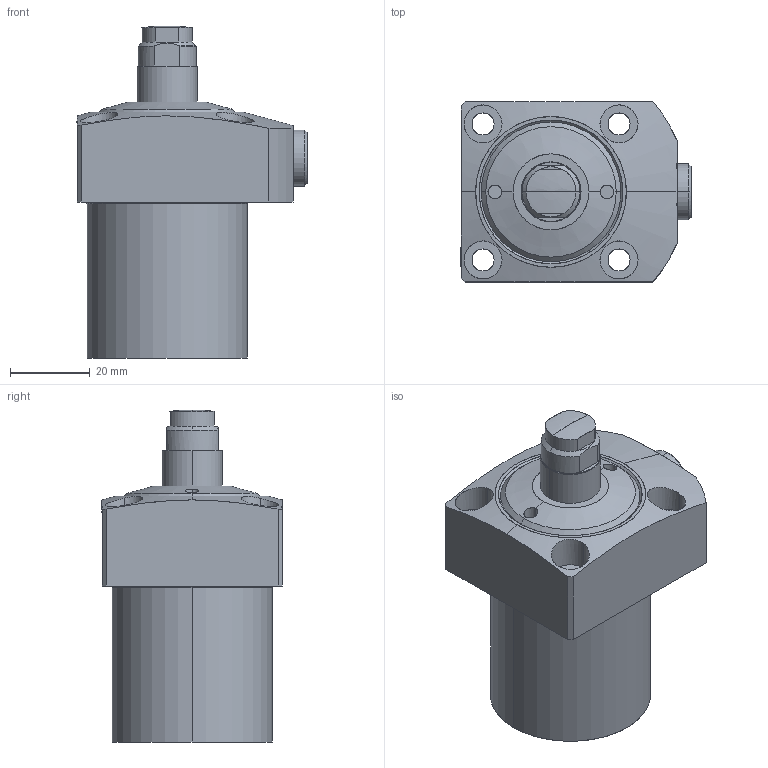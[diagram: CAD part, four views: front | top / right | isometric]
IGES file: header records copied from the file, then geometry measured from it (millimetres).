
Start section: SolidWorks IGES file using analytic representation for surfaces
Global section: file name: D:\abhilash\nijil\cylinder\Clasys1\lcE\cx\402\pt\0203-0101-E.IGS; native system: SolidWorks 2010; preprocessor: SolidWorks 2010; author: nidheesh; date: 130730.121546; units: millimetre
Bounding box: 57.5 x 45 x 83 mm (x, y, z)
Surface area: 16471.2 mm2 (no closed solid volume)
Topology: 0 solids, 0 shells, 84 faces, 1637 edges, 1636 vertices
Faces by surface type: revolution 52, bspline 32
